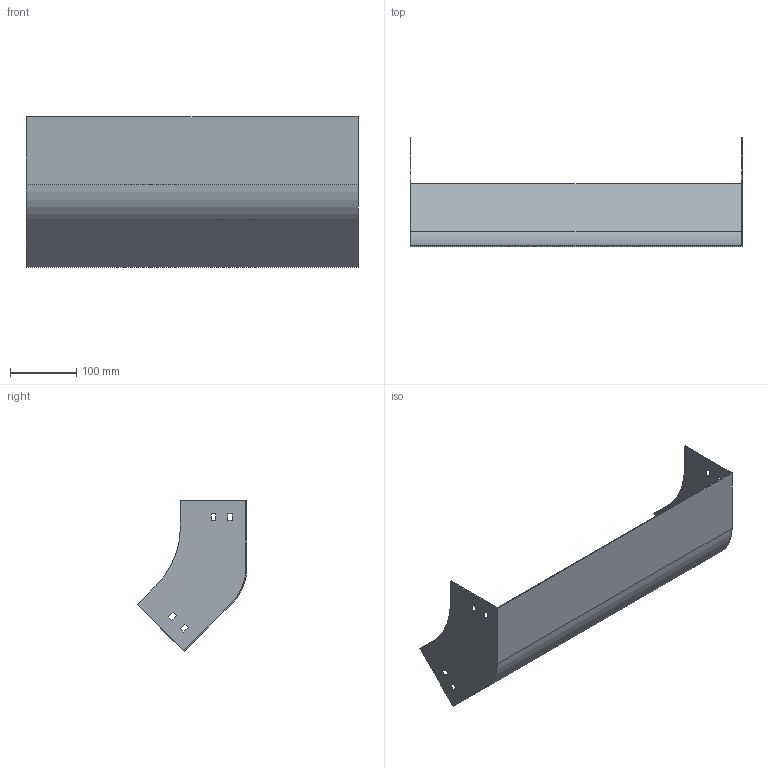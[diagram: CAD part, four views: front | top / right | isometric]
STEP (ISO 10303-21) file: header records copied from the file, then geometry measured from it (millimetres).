
FILE_DESCRIPTION (( 'STEP AP214' ), '1' );
FILE_NAME ('S4_501.step', '2025-07-16T09:27:07', ( '' ), ( '' ), 'SwSTEP 2.0', 'SolidWorks 2023', '' );
FILE_SCHEMA (( 'AUTOMOTIVE_DESIGN' ));
Length unit declared in the file: millimetre
Products named in the file (1): S4_501
Bounding box: 500 x 164.9 x 227.38 mm (x, y, z)
Volume: 263051.2 mm3; surface area: 353770.2 mm2
Topology: 1 solids, 1 shells, 50 faces, 144 edges, 96 vertices
Faces by surface type: plane 46, cylinder 4
Entity records: 1671 total; most frequent: CARTESIAN_POINT 291, ORIENTED_EDGE 288, DIRECTION 254, EDGE_CURVE 144, LINE 136, VECTOR 136, VERTEX_POINT 96, EDGE_LOOP 66
